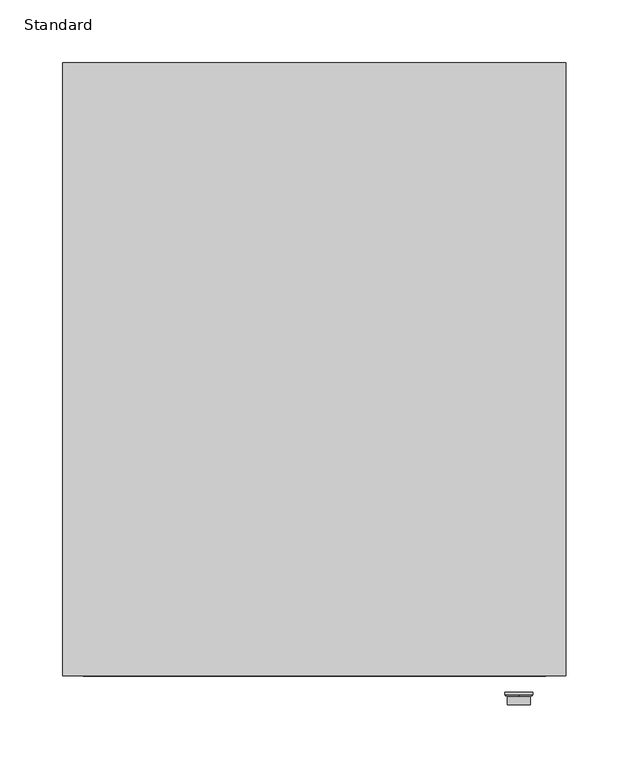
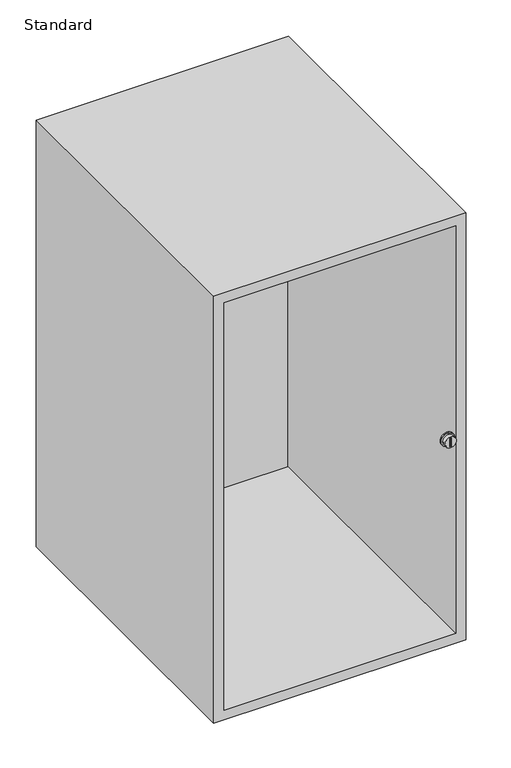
"""IFC4 building model written with IfcOpenShell, lengths in millimetres: furniture geometry, X_Locker-Duracube-Bay : Standard."""

from ifc_helpers import new_model, si_unit, point, frame, frame_2d, origin, place, context, project, spatial, polyline, circle_curve, ellipse_curve, trimmed, segment, composite_curve, outline, extrude, faceted_brep, source, transform, mapped, element, save
from ifc_brep_helpers import plane_surface, revolved_surface, advanced_brep


def standard_bf09c246(model_context):
    return source(origin(), model_context, "Body", "SolidModel", [
        extrude(outline(composite_curve([segment(trimmed(circle_curve(frame_2d((357.5, 207.2003264)), 11.0), [point((357.5, 196.2003264))], [point((357.5, 218.2003264))], False, "CARTESIAN"), True, "CONTINUOUS"), segment(trimmed(circle_curve(frame_2d((357.5, 207.2003264)), 11.0), [point((357.5, 218.2003264))], [point((357.5, 196.2003264))], False, "CARTESIAN"), True, "CONTINUOUS")], self_intersect=False)), frame((0.0, -502.0, 0.0), z_axis=(0.0, 1.0, 0.0), x_axis=(0.0, 0.0, 1.0)), (0.0, 0.0, 1.0), 2.0),
        advanced_brep(
        [(207.2003264, -503.0, 348.5), (207.2003264, -503.0, 366.5), (207.2003264, -502.0, 368.5), (207.2003264, -502.0, 346.5), (207.2003264, -502.0, 348.5), (207.2003264, -502.0, 366.5)],
        [
            (0, 1, circle_curve(frame((207.2003264, -503.0, 357.5), z_axis=(0.0, 1.0, 0.0), x_axis=(0.0, 0.0, 1.0)), 9.0)),
            (1, 2, ellipse_curve(frame((207.2003264, -502.0, 366.5), z_axis=(-1.0, 0.0, 0.0), x_axis=(0.0, 0.0, 1.0)), 2.0, 1.0)),
            (2, 3, circle_curve(frame((207.2003264, -502.0, 357.5), z_axis=(0.0, -1.0, 0.0), x_axis=(0.0, 0.0, 1.0)), 11.0)),
            (3, 0, ellipse_curve(frame((207.2003264, -502.0, 348.5), z_axis=(-1.0, 0.0, 0.0), x_axis=(0.0, 0.0, -1.0)), 2.0, 1.0)),
            (1, 0, circle_curve(frame((207.2003264, -503.0, 357.5), z_axis=(0.0, 1.0, 0.0), x_axis=(0.0, 0.0, 1.0)), 9.0)),
            (3, 2, circle_curve(frame((207.2003264, -502.0, 357.5), z_axis=(0.0, -1.0, 0.0), x_axis=(0.0, 0.0, 1.0)), 11.0)),
            (4, 5, circle_curve(frame((207.2003264, -502.0, 357.5), z_axis=(0.0, 1.0, 0.0), x_axis=(0.0, 0.0, 1.0)), 9.0)),
            (5, 1),
            (0, 4),
            (5, 4, circle_curve(frame((207.2003264, -502.0, 357.5), z_axis=(0.0, 1.0, 0.0), x_axis=(0.0, 0.0, 1.0)), 9.0)),
            (2, 5),
            (4, 3),
        ],
        [
            revolved_surface(trimmed(ellipse_curve(frame((207.2003264, -502.0, 366.5), z_axis=(1.0, 0.0, 0.0), x_axis=(0.0, 0.0, 1.0)), 2.0, 1.0), [point((207.2003264, -502.0, 368.5))], [point((207.2003264, -503.0, 366.5))], True, "CARTESIAN"), (207.2003264, -502.0, 357.5), (0.0, -1.0, 0.0)),
            revolved_surface(polyline([(207.2003264, -503.0, 366.5), (207.2003264, -502.0, 366.5)]), (207.2003264, -502.0, 357.5), (0.0, -1.0, 0.0)),
            plane_surface(frame((207.2003264, -502.0, 357.5), z_axis=(0.0, 1.0, 0.0), x_axis=(0.0, 0.0, 1.0))),
        ],
        [
            (0, [[1, 2, 3, 4]]),
            (0, [[5, -4, 6, -2]]),
            (1, [[7, 8, -1, 9]]),
            (1, [[10, -9, -5, -8]]),
            (2, [[-3, 11, -7, 12]]),
            (2, [[-6, -12, -10, -11]]),
        ],
    ),
        extrude(outline(polyline([(208.2003264, -509.0), (206.2003264, -509.0), (206.2003264, -507.0), (208.2003264, -507.0), (208.2003264, -509.0)])), frame((0.0, 0.0, 350.5), z_axis=(0.0, 0.0, 1.0), x_axis=(1.0, 0.0, 0.0)), (0.0, 0.0, 1.0), 14.0),
        extrude(outline(composite_curve([segment(trimmed(circle_curve(frame_2d((357.5, 207.2003264)), 9.0), [point((357.5, 198.2003264))], [point((357.5, 216.2003264))], False, "CARTESIAN"), True, "CONTINUOUS"), segment(trimmed(circle_curve(frame_2d((357.5, 207.2003264)), 9.0), [point((357.5, 216.2003264))], [point((357.5, 198.2003264))], False, "CARTESIAN"), True, "CONTINUOUS")], self_intersect=False), holes=[polyline([(364.5, 208.2003264), (350.5, 208.2003264), (350.5, 206.2003264), (364.5, 206.2003264), (364.5, 208.2003264)])]), frame((0.0, -510.0, 0.0), z_axis=(0.0, 1.0, 0.0), x_axis=(0.0, 0.0, 1.0)), (0.0, 0.0, 1.0), 8.0),
        faceted_brep([(244.7003264, -487.0, 715.0), (-155.2996736, -487.0, 715.0), (-155.2996736, -487.0, 0.0), (244.7003264, -487.0, 0.0), (228.7003264, -487.0, 699.0), (228.7003264, -487.0, 16.0), (-139.2996736, -487.0, 16.0), (-139.2996736, -487.0, 699.0), (244.7003264, 0.0, 715.0), (244.7003264, 0.0, 0.0), (-155.2996736, 0.0, 0.0), (-155.2996736, 0.0, 715.0), (228.7003264, 0.0, 699.0), (-139.2996736, 0.0, 699.0), (-139.2996736, 0.0, 16.0), (228.7003264, 0.0, 16.0), (228.7003264, -26.0, 699.0), (228.7003264, -26.0, 16.0), (228.7003264, -10.0, 16.0), (228.7003264, -10.0, 699.0), (-139.2996736, -26.0, 16.0), (-139.2996736, -10.0, 16.0), (-139.2996736, -26.0, 699.0), (-139.2996736, -10.0, 699.0)], [[[0, 1, 2, 3], [4, 5, 6, 7]], [[8, 9, 10, 11], [12, 13, 14, 15]], [[1, 0, 8, 11]], [[2, 1, 11, 10]], [[3, 2, 10, 9]], [[0, 3, 9, 8]], [[5, 4, 16, 17]], [[12, 15, 18, 19]], [[6, 5, 17, 20]], [[15, 14, 21, 18]], [[7, 6, 20, 22]], [[14, 13, 23, 21]], [[4, 7, 22, 16]], [[13, 12, 19, 23]], [[17, 16, 22, 20]], [[19, 18, 21, 23]]]),
    ])


if __name__ == "__main__":
    model = new_model("IFC4")
    model_context = context("Model", 3, world=origin())
    ifc_project = project(units=[si_unit("LENGTHUNIT", "METRE", prefix="MILLI")], contexts=[model_context])
    site = spatial("IfcSite", under=ifc_project)
    building = spatial("IfcBuilding", under=site)
    placement = place(None, origin())
    standard_shape = standard_bf09c246(model_context)
    element("IfcFurniture", 1, ObjectType="X_Locker-Duracube-Bay : Standard", at=placement, inside=building, context=model_context, shape_type="MappedRepresentation", body=[
        mapped(standard_shape, transform((0.0, 0.0, 0.0), x_axis=(1.0, 0.0, 0.0), y_axis=(0.0, 1.0, 0.0), z_axis=(0.0, 0.0, 1.0))),
    ])
    save(model, "model.ifc")
